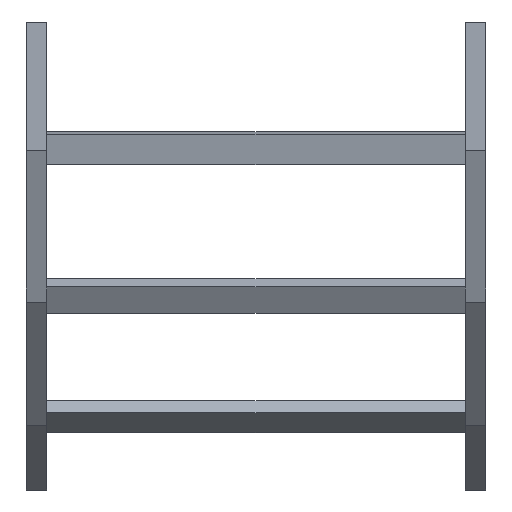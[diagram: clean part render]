
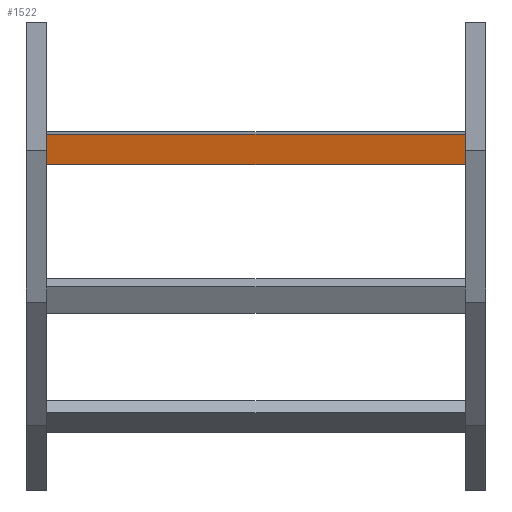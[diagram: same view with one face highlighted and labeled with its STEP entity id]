
A CAD part, front view. The second image highlights one B-rep face of the part: STEP entity #1522.
In plain terms, the highlighted planar face has unit normal (0, -0.985, -0.174) as drawn and (0, -1, 0) by its records, which use the part's own axes.
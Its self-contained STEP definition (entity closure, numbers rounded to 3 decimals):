
#62 = DIRECTION ( 'NONE',  ( 0., 0., -1. ) ) ;
#153 = VERTEX_POINT ( 'NONE', #913 ) ;
#164 = VERTEX_POINT ( 'NONE', #1012 ) ;
#176 = ORIENTED_EDGE ( 'NONE', *, *, #784, .F. ) ;
#181 = VERTEX_POINT ( 'NONE', #231 ) ;
#206 = CARTESIAN_POINT ( 'NONE',  ( 298., 0., 20.25 ) ) ;
#231 = CARTESIAN_POINT ( 'NONE',  ( -298., 0., -20.25 ) ) ;
#234 = VERTEX_POINT ( 'NONE', #1330 ) ;
#304 = VECTOR ( 'NONE', #868, 1000. ) ;
#325 = DIRECTION ( 'NONE',  ( -1., 0., 0. ) ) ;
#419 = EDGE_CURVE ( 'NONE', #164, #153, #1130, .T. ) ;
#449 = EDGE_CURVE ( 'NONE', #153, #181, #599, .T. ) ;
#472 = EDGE_CURVE ( 'NONE', #234, #181, #1633, .T. ) ;
#492 = VECTOR ( 'NONE', #62, 1000. ) ;
#540 = ORIENTED_EDGE ( 'NONE', *, *, #449, .T. ) ;
#576 = AXIS2_PLACEMENT_3D ( 'NONE', #812, #782, #906 ) ;
#599 = LINE ( 'NONE', #1112, #1348 ) ;
#604 = VECTOR ( 'NONE', #325, 1000. ) ;
#707 = ORIENTED_EDGE ( 'NONE', *, *, #419, .T. ) ;
#734 = DIRECTION ( 'NONE',  ( 0., 0., -1. ) ) ;
#774 = PLANE ( 'NONE',  #576 ) ;
#782 = DIRECTION ( 'NONE',  ( 0., 1., 0. ) ) ;
#784 = EDGE_CURVE ( 'NONE', #164, #234, #1110, .T. ) ;
#812 = CARTESIAN_POINT ( 'NONE',  ( 298., 0., 20.25 ) ) ;
#868 = DIRECTION ( 'NONE',  ( -1., 0., 0. ) ) ;
#906 = DIRECTION ( 'NONE',  ( 0., 0., 1. ) ) ;
#913 = CARTESIAN_POINT ( 'NONE',  ( -298., 0., 20.25 ) ) ;
#1012 = CARTESIAN_POINT ( 'NONE',  ( 298., 0., 20.25 ) ) ;
#1110 = LINE ( 'NONE', #1228, #492 ) ;
#1112 = CARTESIAN_POINT ( 'NONE',  ( -298., 0., 20.25 ) ) ;
#1130 = LINE ( 'NONE', #206, #304 ) ;
#1134 = CARTESIAN_POINT ( 'NONE',  ( 298., 0., -20.25 ) ) ;
#1228 = CARTESIAN_POINT ( 'NONE',  ( 298., 0., 20.25 ) ) ;
#1230 = ORIENTED_EDGE ( 'NONE', *, *, #472, .F. ) ;
#1302 = FACE_OUTER_BOUND ( 'NONE', #1596, .T. ) ;
#1330 = CARTESIAN_POINT ( 'NONE',  ( 298., 0., -20.25 ) ) ;
#1348 = VECTOR ( 'NONE', #734, 1000. ) ;
#1522 = ADVANCED_FACE ( 'NONE', ( #1302 ), #774, .F. ) ;
#1596 = EDGE_LOOP ( 'NONE', ( #540, #1230, #176, #707 ) ) ;
#1633 = LINE ( 'NONE', #1134, #604 ) ;
